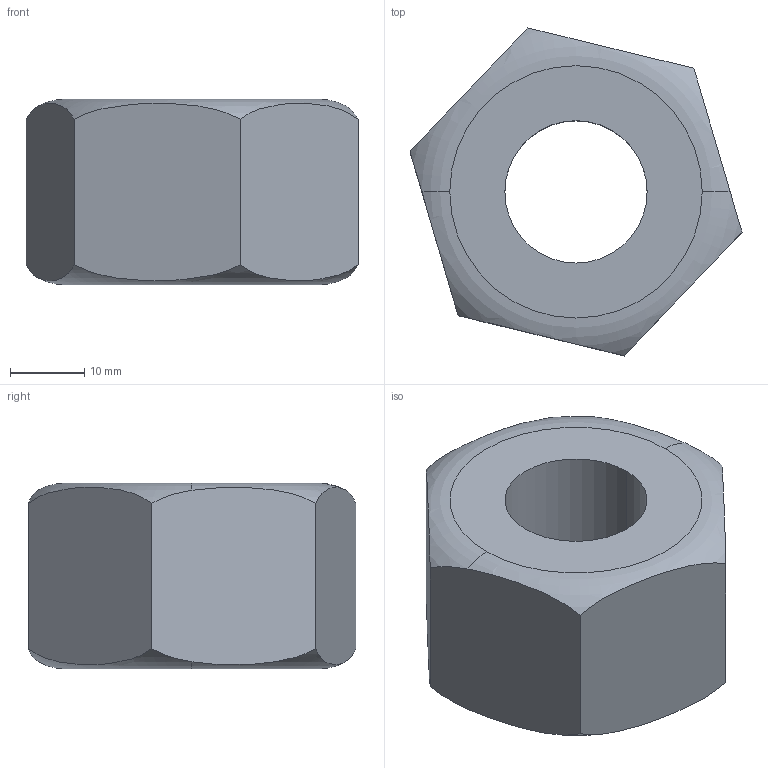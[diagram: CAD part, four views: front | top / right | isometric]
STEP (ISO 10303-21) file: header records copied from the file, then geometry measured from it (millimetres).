
FILE_DESCRIPTION (( 'STEP AP214' ), '1' );
FILE_NAME ('nut-STEP.STEP', '2020-11-27T10:15:29', ( '' ), ( '' ), 'SwSTEP 2.0', 'SolidWorks 2020', '' );
FILE_SCHEMA (( 'AUTOMOTIVE_DESIGN' ));
Length unit declared in the file: millimetre
Products named in the file (1): nut-STEP
Bounding box: 44.72 x 44.15 x 25 mm (x, y, z)
Volume: 26774.4 mm3; surface area: 6869.1 mm2
Topology: 1 solids, 1 shells, 14 faces, 36 edges, 24 vertices
Faces by surface type: plane 8, torus 4, cylinder 2
Entity records: 706 total; most frequent: CARTESIAN_POINT 343, ORIENTED_EDGE 72, DIRECTION 62, EDGE_CURVE 36, AXIS2_PLACEMENT_3D 27, VERTEX_POINT 24, EDGE_LOOP 16, B_SPLINE_CURVE_WITH_KNOTS 16
